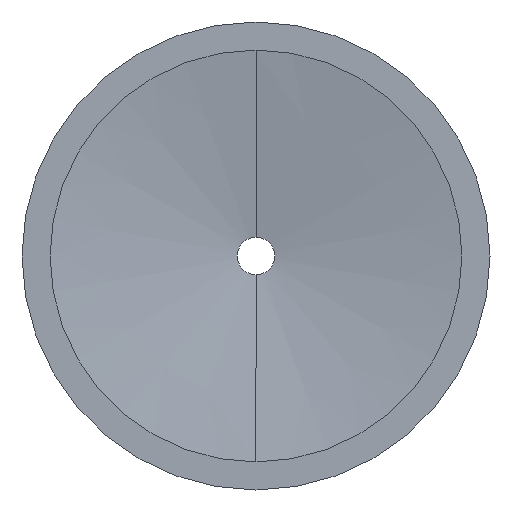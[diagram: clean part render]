
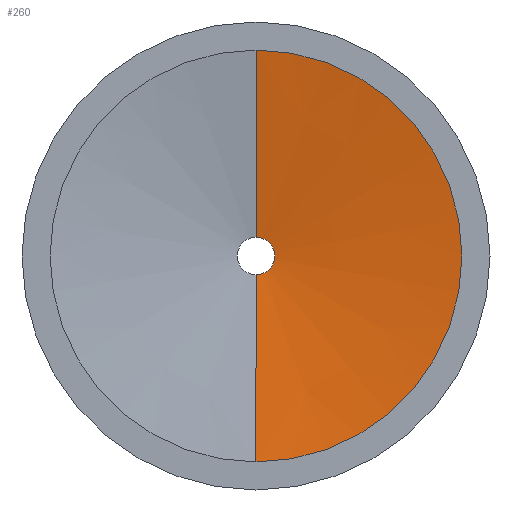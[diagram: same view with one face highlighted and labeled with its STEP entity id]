
A CAD part, left-side view. The second image highlights one B-rep face of the part: STEP entity #260.
In plain terms, the highlighted conical face has half-angle 81.469 degrees and reference radius 1 mm.
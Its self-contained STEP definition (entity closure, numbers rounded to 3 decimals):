
#3 = CARTESIAN_POINT ( 'NONE',  ( 0., 0., 11. ) ) ;
#8 = VERTEX_POINT ( 'NONE', #3 ) ;
#47 = CARTESIAN_POINT ( 'NONE',  ( 0., 0., 0. ) ) ;
#51 = DIRECTION ( 'NONE',  ( -1., 0., 0. ) ) ;
#56 = DIRECTION ( 'NONE',  ( 0., 0., 1. ) ) ;
#118 = FACE_OUTER_BOUND ( 'NONE', #535, .T. ) ;
#135 = CARTESIAN_POINT ( 'NONE',  ( 1.5, 0., 1. ) ) ;
#152 = CONICAL_SURFACE ( 'NONE', #505, 1., 1.422 ) ;
#201 = ORIENTED_EDGE ( 'NONE', *, *, #371, .F. ) ;
#221 = CIRCLE ( 'NONE', #678, 1. ) ;
#227 = DIRECTION ( 'NONE',  ( 1., 0., 0. ) ) ;
#239 = EDGE_CURVE ( 'NONE', #336, #746, #727, .T. ) ;
#260 = ADVANCED_FACE ( 'NONE', ( #118 ), #152, .F. ) ;
#273 = DIRECTION ( 'NONE',  ( -1., 0., 0. ) ) ;
#301 = DIRECTION ( 'NONE',  ( -0.148, 0., 0.989 ) ) ;
#323 = VECTOR ( 'NONE', #760, 1000. ) ;
#336 = VERTEX_POINT ( 'NONE', #583 ) ;
#370 = AXIS2_PLACEMENT_3D ( 'NONE', #47, #51, #56 ) ;
#371 = EDGE_CURVE ( 'NONE', #750, #8, #554, .T. ) ;
#395 = EDGE_CURVE ( 'NONE', #750, #336, #221, .T. ) ;
#456 = CARTESIAN_POINT ( 'NONE',  ( 0., 0., -11. ) ) ;
#467 = DIRECTION ( 'NONE',  ( 0., 0., 1. ) ) ;
#474 = CARTESIAN_POINT ( 'NONE',  ( 1.5, 0., 0. ) ) ;
#505 = AXIS2_PLACEMENT_3D ( 'NONE', #721, #273, #626 ) ;
#535 = EDGE_LOOP ( 'NONE', ( #537, #551, #731, #201 ) ) ;
#537 = ORIENTED_EDGE ( 'NONE', *, *, #395, .T. ) ;
#551 = ORIENTED_EDGE ( 'NONE', *, *, #239, .T. ) ;
#554 = LINE ( 'NONE', #711, #715 ) ;
#583 = CARTESIAN_POINT ( 'NONE',  ( 1.5, 0., -1. ) ) ;
#626 = DIRECTION ( 'NONE',  ( 0., 0., 1. ) ) ;
#678 = AXIS2_PLACEMENT_3D ( 'NONE', #474, #227, #467 ) ;
#688 = EDGE_CURVE ( 'NONE', #746, #8, #717, .T. ) ;
#711 = CARTESIAN_POINT ( 'NONE',  ( 1.5, 0., 1. ) ) ;
#715 = VECTOR ( 'NONE', #301, 1000. ) ;
#717 = CIRCLE ( 'NONE', #370, 11. ) ;
#721 = CARTESIAN_POINT ( 'NONE',  ( 1.5, 0., 0. ) ) ;
#727 = LINE ( 'NONE', #744, #323 ) ;
#731 = ORIENTED_EDGE ( 'NONE', *, *, #688, .T. ) ;
#744 = CARTESIAN_POINT ( 'NONE',  ( 1.5, 0., -1. ) ) ;
#746 = VERTEX_POINT ( 'NONE', #456 ) ;
#750 = VERTEX_POINT ( 'NONE', #135 ) ;
#760 = DIRECTION ( 'NONE',  ( -0.148, 0., -0.989 ) ) ;
